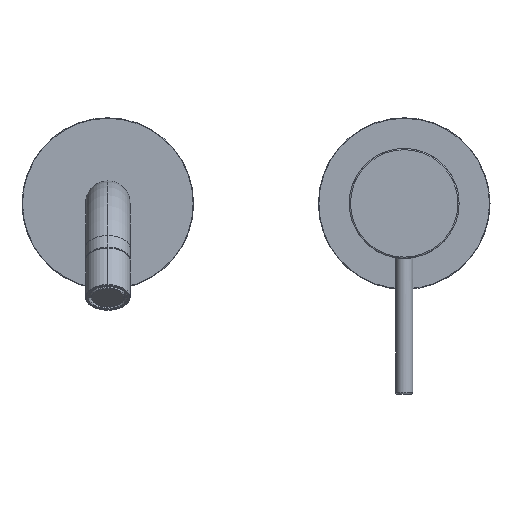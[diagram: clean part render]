
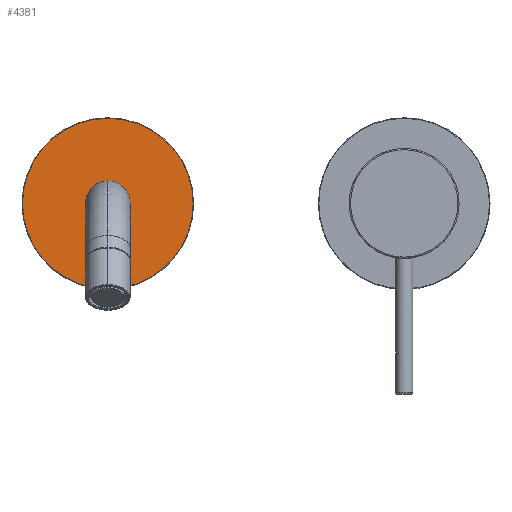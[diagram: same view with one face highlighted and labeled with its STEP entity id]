
A CAD part, top view. The second image highlights one B-rep face of the part: STEP entity #4381.
In plain terms, the highlighted planar face has unit normal (0, 0, 1).
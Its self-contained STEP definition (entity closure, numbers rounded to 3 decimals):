
#2212=CARTESIAN_POINT('',(-120.,0.,0.));
#2213=DIRECTION('',(0.,0.,1.));
#2214=DIRECTION('',(1.,0.,0.));
#2215=AXIS2_PLACEMENT_3D('',#2212,#2213,#2214);
#2217=CARTESIAN_POINT('',(-120.,0.,0.));
#2218=DIRECTION('',(0.,0.,1.));
#2219=DIRECTION('',(-1.,0.,0.));
#2220=AXIS2_PLACEMENT_3D('',#2217,#2218,#2219);
#2227=CARTESIAN_POINT('',(-120.,0.,0.));
#2228=DIRECTION('',(0.,0.,1.));
#2229=DIRECTION('',(0.,1.,0.));
#2230=AXIS2_PLACEMENT_3D('',#2227,#2228,#2229);
#2237=CARTESIAN_POINT('',(-120.,0.,0.));
#2238=DIRECTION('',(0.,0.,1.));
#2239=DIRECTION('',(0.,-1.,0.));
#2240=AXIS2_PLACEMENT_3D('',#2237,#2238,#2239);
#3607=CARTESIAN_POINT('',(-85.45,0.,0.));
#3608=CARTESIAN_POINT('',(-154.55,0.,0.));
#3609=VERTEX_POINT('',#3607);
#3610=VERTEX_POINT('',#3608);
#3651=CARTESIAN_POINT('',(-120.,8.8,0.));
#3652=CARTESIAN_POINT('',(-120.,-8.8,0.));
#3653=VERTEX_POINT('',#3651);
#3654=VERTEX_POINT('',#3652);
#4365=CARTESIAN_POINT('',(-120.,0.,0.));
#4366=DIRECTION('',(0.,0.,-1.));
#4367=DIRECTION('',(-1.,0.,0.));
#4368=AXIS2_PLACEMENT_3D('',#4365,#4366,#4367);
#4369=PLANE('',#4368);
#4370=ORIENTED_EDGE('',*,*,#4355,.F.);
#4372=ORIENTED_EDGE('',*,*,#4371,.F.);
#4373=EDGE_LOOP('',(#4370,#4372));
#4374=FACE_OUTER_BOUND('',#4373,.F.);
#4376=ORIENTED_EDGE('',*,*,#4375,.T.);
#4378=ORIENTED_EDGE('',*,*,#4377,.T.);
#4379=EDGE_LOOP('',(#4376,#4378));
#4380=FACE_BOUND('',#4379,.F.);
#4381=ADVANCED_FACE('',(#4374,#4380),#4369,.F.);
#2216=CIRCLE('',#2215,34.55);
#2221=CIRCLE('',#2220,34.55);
#2231=CIRCLE('',#2230,8.8);
#2241=CIRCLE('',#2240,8.8);
#4355=EDGE_CURVE('',#3609,#3610,#2216,.T.);
#4371=EDGE_CURVE('',#3610,#3609,#2221,.T.);
#4375=EDGE_CURVE('',#3653,#3654,#2231,.T.);
#4377=EDGE_CURVE('',#3654,#3653,#2241,.T.);
